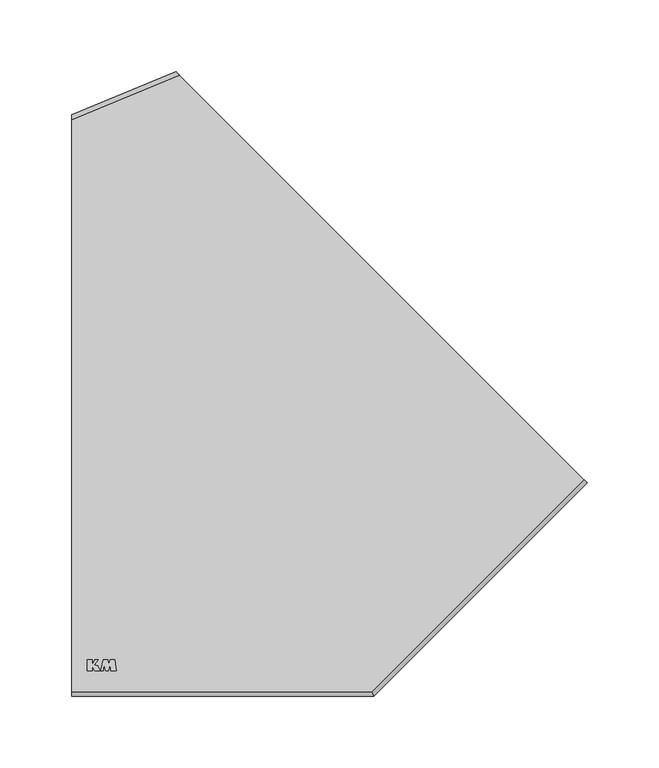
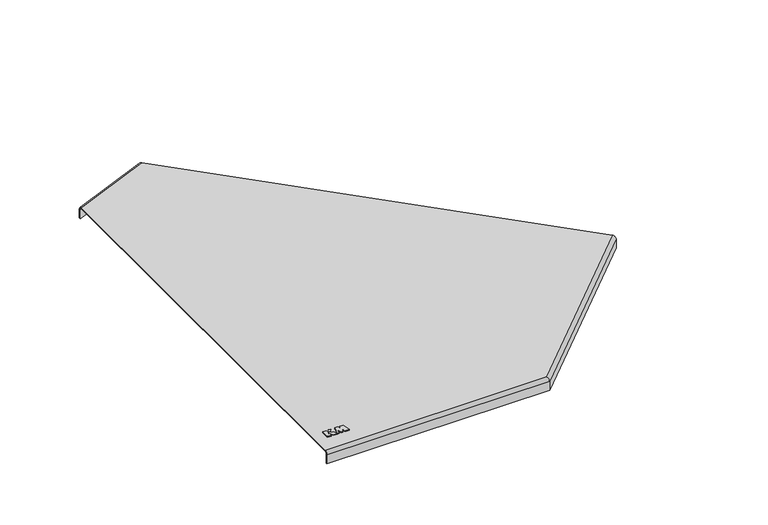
"""IFC4 building model written with IfcOpenShell, lengths in millimetres: cable carrier fitting geometry, КМ Профиль Крышка угла горизонтального KGL45 : Крышка угла горизонтального KGL45."""

import ifcopenshell
import ifcopenshell.guid

model = None  # the IFC model being written
_history = None  # IfcOwnerHistory: only IFC2X3 demands one
_inside = {}  # id of a spatial element -> (the spatial element, [elements in it])
_under = {}  # id of a project, library or spatial element -> (it, [spatial elements below it])
_declared = {}  # id of a project -> (the project, [libraries it declares])
_typed = {}  # id of a type object -> (the type object, [elements of that type])
_made_of = {}  # id of a material, layer set ... -> (it, [elements and type objects made of it])


def new_model(schema):
    """Start an empty IFC model of exactly this schema.

    Asked for "IFC4X3", IfcOpenShell would pick the latest addendum, in which some entities
    have other attributes; the version numbers below select the first issue.
    IFC2X3 requires an IfcOwnerHistory on every rooted entity: one is made here for all.
    """
    global model, _history
    if schema == "IFC4X3":
        model = ifcopenshell.file(schema_version=(4, 3, 0, 0))
    else:
        model = ifcopenshell.file(schema=schema)
    _inside.clear()
    _under.clear()
    _declared.clear()
    _typed.clear()
    _made_of.clear()
    _history = None
    if model.schema == "IFC2X3":
        org = make("IfcOrganization", Name="unknown")
        user = make(
            "IfcPersonAndOrganization",
            ThePerson=make("IfcPerson", FamilyName="unknown"),
            TheOrganization=org,
        )
        app = make(
            "IfcApplication",
            ApplicationDeveloper=org,
            Version="unknown",
            ApplicationFullName="unknown",
            ApplicationIdentifier="unknown",
        )
        _history = make(
            "IfcOwnerHistory",
            OwningUser=user,
            OwningApplication=app,
            ChangeAction="ADDED",
            CreationDate=0,
        )
    return model


def make(cls, **values):
    """One entity of the class cls with the attributes given. An attribute that is None is left unset."""
    return model.create_entity(
        cls, **{name: value for name, value in values.items() if value is not None}
    )


def rooted(cls, **values):
    """An entity with a GlobalId (a new one), such as an element, a storey or a relation."""
    return make(cls, GlobalId=ifcopenshell.guid.new(), OwnerHistory=_history, **values)


def si_unit(unit_type, name, prefix=None):
    """IfcSIUnit, for example si_unit("LENGTHUNIT", "METRE", prefix="MILLI")."""
    return make("IfcSIUnit", UnitType=unit_type, Prefix=prefix, Name=name)


def assignment(units):
    """IfcUnitAssignment: the units of a project."""
    return None if units is None else make("IfcUnitAssignment", Units=units)


def point(xyz):
    """IfcCartesianPoint."""
    return None if xyz is None else make("IfcCartesianPoint", Coordinates=xyz)


def direction(xyz):
    """IfcDirection."""
    return None if xyz is None else make("IfcDirection", DirectionRatios=xyz)


def frame(location, z_axis=None, x_axis=None):
    """IfcAxis2Placement3D, a coordinate frame: its origin and axes. An axis left out is left unset."""
    return make(
        "IfcAxis2Placement3D",
        Location=point(location),
        Axis=direction(z_axis),
        RefDirection=direction(x_axis),
    )


def origin():
    """The frame at (0, 0, 0) with its axes left unset."""
    return frame((0.0, 0.0, 0.0))


def place(relative_to, where):
    """IfcLocalPlacement: puts the frame where relative to a parent placement (None: the world)."""
    return make(
        "IfcLocalPlacement", PlacementRelTo=relative_to, RelativePlacement=where
    )


def context(
    kind, dimensions, precision=None, world=None, true_north=None, identifier=None
):
    """IfcGeometricRepresentationContext, for example the 3D "Model" context."""
    return make(
        "IfcGeometricRepresentationContext",
        ContextIdentifier=identifier,
        ContextType=kind,
        CoordinateSpaceDimension=dimensions,
        Precision=precision,
        WorldCoordinateSystem=world,
        TrueNorth=true_north,
    )


def project(units=None, contexts=None):
    """IfcProject with its units and contexts."""
    return rooted(
        "IfcProject",
        Name="project",
        RepresentationContexts=contexts,
        UnitsInContext=assignment(units),
    )


def spatial(cls, under=None, at=None, **own):
    """A site, building, storey or space (cls), placed at a placement, below another one or the project."""
    s = rooted(cls, ObjectPlacement=at, **own)
    if under is not None:
        _under.setdefault(under.id(), (under, []))[1].append(s)
    return s


def polyline(points):
    """IfcPolyline through the points."""
    return make("IfcPolyline", Points=[point(p) for p in points])


def circle_curve(where, radius):
    """IfcCircle in the frame where."""
    return make("IfcCircle", Position=where, Radius=radius)


def ellipse_curve(where, semi_axis1, semi_axis2):
    """IfcEllipse in the frame where."""
    return make(
        "IfcEllipse", Position=where, SemiAxis1=semi_axis1, SemiAxis2=semi_axis2
    )


def outline(outer, holes=None, kind="AREA"):
    """IfcArbitraryClosedProfileDef: a profile drawn as a closed curve; with holes, ...WithVoids."""
    if holes is None:
        return make("IfcArbitraryClosedProfileDef", ProfileType=kind, OuterCurve=outer)
    return make(
        "IfcArbitraryProfileDefWithVoids",
        ProfileType=kind,
        OuterCurve=outer,
        InnerCurves=holes,
    )


def extrude(swept, where, along, depth):
    """IfcExtrudedAreaSolid: the profile swept, set in the frame where, extruded along a direction by depth."""
    return make(
        "IfcExtrudedAreaSolid",
        SweptArea=swept,
        Position=where,
        ExtrudedDirection=direction(along),
        Depth=depth,
    )


def shape(context_of_items, identifier, shape_type, items):
    """IfcShapeRepresentation: the items that make up one representation, for example the "Body"."""
    return make(
        "IfcShapeRepresentation",
        ContextOfItems=context_of_items,
        RepresentationIdentifier=identifier,
        RepresentationType=shape_type,
        Items=items,
    )


def source(mapping_origin, context_of_items, identifier, shape_type, items):
    """IfcRepresentationMap: a shape defined once, which mapped items show again and again."""
    return make(
        "IfcRepresentationMap",
        MappingOrigin=mapping_origin,
        MappedRepresentation=shape(context_of_items, identifier, shape_type, items),
    )


def transform(
    local_origin,
    x_axis=None,
    y_axis=None,
    z_axis=None,
    scale=None,
    scale2=None,
    scale3=None,
    uniform=True,
):
    """IfcCartesianTransformationOperator3D, or its non-uniform kind. x_axis, y_axis, z_axis: its Axis1, 2, 3."""
    if uniform:
        return make(
            "IfcCartesianTransformationOperator3D",
            Axis1=direction(x_axis),
            Axis2=direction(y_axis),
            LocalOrigin=point(local_origin),
            Scale=scale,
            Axis3=direction(z_axis),
        )
    return make(
        "IfcCartesianTransformationOperator3DnonUniform",
        Axis1=direction(x_axis),
        Axis2=direction(y_axis),
        LocalOrigin=point(local_origin),
        Scale=scale,
        Axis3=direction(z_axis),
        Scale2=scale2,
        Scale3=scale3,
    )


def mapped(mapping_source, mapping_target):
    """IfcMappedItem: shows the shape of a source again, moved by a transform."""
    return make(
        "IfcMappedItem", MappingSource=mapping_source, MappingTarget=mapping_target
    )


def made_of(thing, what):
    """Note that an element or type object is made of a material, layer set ...; save() writes the relation."""
    if what is not None:
        _made_of.setdefault(what.id(), (what, []))[1].append(thing)
    return thing


def element(
    cls,
    number,
    at=None,
    inside=None,
    cuts=None,
    type_object=None,
    material=None,
    context=None,
    identifier="Body",
    shape_type=None,
    held_by="IfcProductDefinitionShape",
    body=None,
    shapes=None,
    **own,
):
    """One element of the class cls, such as IfcWall. Its Tag is "e" and its number.

    at: its placement. inside: the storey or other place that contains it. cuts: it is an
    opening in that element (IfcRelVoidsElement). A single representation is given by context,
    identifier, shape_type and body (its items); several are given by shapes. held_by: the class
    of the entity that holds the representations. save() writes the other relations.
    """
    e = rooted(cls, Tag="e%d" % number, ObjectPlacement=at, **own)
    if body is not None:
        shapes = [shape(context, identifier, shape_type, body)]
    if shapes is not None:
        e.Representation = make(held_by, Representations=shapes)
    if inside is not None:
        _inside.setdefault(inside.id(), (inside, []))[1].append(e)
    if cuts is not None:
        rooted(
            "IfcRelVoidsElement", RelatingBuildingElement=cuts, RelatedOpeningElement=e
        )
    if type_object is not None:
        _typed.setdefault(type_object.id(), (type_object, []))[1].append(e)
    return made_of(e, material)


def aggregate(whole, parts):
    """IfcRelAggregates: a whole, such as a stair, and the parts it consists of."""
    return rooted("IfcRelAggregates", RelatingObject=whole, RelatedObjects=parts)


def save(model, path):
    """Write the relations noted so far, then the file.

    IfcRelAggregates (storeys below a building ...), IfcRelContainedInSpatialStructure (elements
    in a storey), IfcRelDefinesByType, IfcRelAssociatesMaterial and IfcRelDeclares: one each for
    every whole, place, type object, material and project.
    """
    for whole, parts in _under.values():
        aggregate(whole, parts)
    for where, things in _inside.values():
        rooted(
            "IfcRelContainedInSpatialStructure",
            RelatedElements=things,
            RelatingStructure=where,
        )
    for kind, things in _typed.values():
        rooted("IfcRelDefinesByType", RelatedObjects=things, RelatingType=kind)
    for what, things in _made_of.values():
        rooted("IfcRelAssociatesMaterial", RelatedObjects=things, RelatingMaterial=what)
    for by, libraries in _declared.values():
        rooted("IfcRelDeclares", RelatingContext=by, RelatedDefinitions=libraries)
    model.write(path)


def plane_surface(at):
    """IfcPlane: the flat surface through the origin of the frame at, square to its z axis."""
    return make("IfcPlane", Position=at)


def cylinder_surface(at, radius):
    """IfcCylindricalSurface: all points at the distance radius from the z axis of the frame at."""
    return make("IfcCylindricalSurface", Position=at, Radius=radius)


def revolved_surface(curve, axis_point, axis_direction):
    """IfcSurfaceOfRevolution: the curve turned about the line through axis_point along axis_direction."""
    return make(
        "IfcSurfaceOfRevolution",
        SweptCurve=make("IfcArbitraryOpenProfileDef", ProfileType="CURVE", Curve=curve),
        AxisPosition=make("IfcAxis1Placement", Location=point(axis_point), Axis=direction(axis_direction)),
    )


def advanced_brep(points, edges, surfaces, faces):
    """IfcAdvancedBrep: a solid bounded by faces that lie on surfaces and meet in shared edges.

    An edge is (start, end): straight between two places in points (the first is 0);
    or (start, end, curve); or (start, end, curve, False) where it runs against its curve.
    A face is (place in surfaces, loops), or (place, loops, False) where it looks against
    its surface's normal. A loop lists edges by number (the first is 1), with a minus sign
    where the edge is run from its end to its start. The first loop is the outer one.
    """
    corners = [point(p) for p in points]
    vertices = [make("IfcVertexPoint", VertexGeometry=c) for c in corners]
    made = []
    for start, end, *more in edges:
        made.append(
            make(
                "IfcEdgeCurve",
                EdgeStart=vertices[start],
                EdgeEnd=vertices[end],
                EdgeGeometry=more[0] if more else make("IfcPolyline", Points=[corners[start], corners[end]]),
                SameSense=more[1] if len(more) > 1 else True,
            )
        )
    hull = []
    for where, loops, *sense in faces:
        bounds = []
        for j, loop in enumerate(loops):
            ring = [make("IfcOrientedEdge", EdgeElement=made[abs(k) - 1], Orientation=k > 0) for k in loop]
            bounds.append(
                make(
                    "IfcFaceOuterBound" if j == 0 else "IfcFaceBound",
                    Bound=make("IfcEdgeLoop", EdgeList=ring),
                    Orientation=True,
                )
            )
        hull.append(make("IfcAdvancedFace", Bounds=bounds, FaceSurface=surfaces[where], SameSense=sense[0] if sense else True))
    return make("IfcAdvancedBrep", Outer=make("IfcClosedShell", CfsFaces=hull))


def cable_carrier_fitting_205fb93f(model_context):
    return source(origin(), model_context, "Body", "SolidModel", [
        extrude(outline(polyline([(-115.6393683, -176.986157), (-112.1321094, -176.986157), (-112.1321094, -180.564509), (-110.2294659, -176.986157), (-108.1035012, -176.986157), (-110.5699857, -180.5086619), (-108.3282346, -181.194034), (-106.4609255, -184.737421), (-110.3593369, -184.737421), (-112.0635414, -181.5720802), (-112.0635414, -184.737421), (-115.6393683, -184.737421), (-115.6393683, -176.986157)])), frame((0.0, 0.0, 3.0), z_axis=(0.0, 0.0, 1.0), x_axis=(1.0, 0.0, 0.0)), (0.0, 0.0, 1.0), 0.8),
        extrude(outline(polyline([(-104.3967661, -184.737421), (-106.2948297, -184.737421), (-104.4745491, -176.9647569), (-101.4438206, -176.9647569), (-100.6773199, -180.0390232), (-99.6560124, -176.9623682), (-96.4620576, -176.9623682), (-95.2705601, -184.7429915), (-99.1730007, -184.7429915), (-99.6504934, -180.0541919), (-101.1305619, -184.7434681), (-102.6050726, -184.7434681), (-104.0130914, -180.0696135), (-104.3967661, -184.737421)])), frame((0.0, 0.0, 3.0), z_axis=(0.0, 0.0, 1.0), x_axis=(1.0, 0.0, 0.0)), (0.0, 0.0, 1.0), 0.8),
        advanced_brep(
        [(-53.8104794, 232.567767, -9.0), (-126.4004902, 202.5, -9.0), (-126.4004902, 202.5, 0.0), (-53.8104794, 232.567767, 0.0), (-126.4004902, 199.2528234, 3.0), (-51.5143788, 230.2716664, 3.0), (-51.5143788, 230.2716664, 2.0), (-126.4004902, 199.2528234, 2.0), (-126.4004902, 201.4176078, 0.0), (-53.0451126, 231.8024001, 0.0), (-126.4004902, 201.4176078, -9.0), (-53.0451126, 231.8024001, -9.0), (230.4464466, -51.6891591, 3.0), (-126.4004902, -199.5, 3.0), (82.6356057, -199.5, 3.0), (-126.4004902, -199.5, 2.0), (230.4464466, -51.6891591, 2.0), (82.6356057, -199.5, 2.0), (232.567767, -53.8104794, 0.0), (232.567767, -53.8104794, -9.0), (231.8606602, -53.1033726, -9.0), (231.8606602, -53.1033726, 0.0), (-126.4004902, -201.5, 0.0), (-126.4004902, -201.5, -9.0), (-126.4004902, -202.5, -9.0), (-126.4004902, -202.5, 0.0), (83.8782464, -202.5, 0.0), (83.4640328, -201.5, 0.0), (83.4640328, -201.5, -9.0), (83.8782464, -202.5, -9.0)],
        [
            (0, 1),
            (1, 2),
            (2, 3),
            (3, 0),
            (4, 5),
            (5, 3, ellipse_curve(frame((-51.5143788, 230.2716664, 0.0), z_axis=(-0.7071067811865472, -0.7071067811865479, 0.0), x_axis=(0.7071067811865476, -0.7071067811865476, 0.0)), 3.2471766, 3.0)),
            (2, 4, ellipse_curve(frame((-126.4004902, 199.2528234, 0.0), z_axis=(1.0, 0.0, 0.0), x_axis=(0.0, 0.9999999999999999, 0.0)), 3.2471766, 3.0)),
            (6, 7),
            (7, 8, ellipse_curve(frame((-126.4004902, 199.2528234, 0.0), z_axis=(-1.0, 0.0, 0.0), x_axis=(0.0, -0.9999999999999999, 0.0)), 2.1647844, 2.0)),
            (8, 9),
            (9, 6, ellipse_curve(frame((-51.5143788, 230.2716664, 0.0), z_axis=(0.7071067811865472, 0.7071067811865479, 0.0), x_axis=(-0.7071067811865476, 0.7071067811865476, 0.0)), 2.1647844, 2.0)),
            (8, 10),
            (10, 11),
            (11, 9),
            (0, 11),
            (10, 1),
            (12, 5),
            (4, 13),
            (13, 14),
            (14, 12),
            (15, 7),
            (6, 16),
            (16, 17),
            (17, 15),
            (12, 18, circle_curve(frame((230.4464466, -51.6891591, 0.0), z_axis=(0.7071067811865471, 0.707106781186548, 0.0), x_axis=(-0.707106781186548, 0.7071067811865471, 0.0)), 3.0)),
            (18, 19),
            (19, 20),
            (20, 21),
            (21, 16, circle_curve(frame((230.4464466, -51.6891591, 0.0), z_axis=(-0.7071067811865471, -0.707106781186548, 0.0), x_axis=(-0.707106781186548, 0.7071067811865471, 0.0)), 2.0)),
            (15, 22, circle_curve(frame((-126.4004902, -199.5, 0.0), z_axis=(1.0, 0.0, 0.0), x_axis=(0.0, 1.0, 0.0)), 2.0)),
            (22, 23),
            (23, 24),
            (24, 25),
            (25, 13, circle_curve(frame((-126.4004902, -199.5, 0.0), z_axis=(-1.0, 0.0, 0.0), x_axis=(0.0, 1.0, 0.0)), 3.0)),
            (25, 26),
            (26, 14, ellipse_curve(frame((82.6356057, -199.5, 0.0), z_axis=(-0.9238795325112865, -0.38268343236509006, 0.0), x_axis=(-0.3826834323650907, 0.9238795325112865, 0.0)), 3.2471766, 3.0)),
            (17, 27, ellipse_curve(frame((82.6356057, -199.5, 0.0), z_axis=(0.9238795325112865, 0.38268343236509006, 0.0), x_axis=(0.3826834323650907, -0.9238795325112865, 0.0)), 2.1647844, 2.0)),
            (27, 22),
            (27, 28),
            (28, 23),
            (28, 20),
            (19, 29),
            (29, 24),
            (29, 26),
            (26, 18),
            (21, 27),
        ],
        [
            plane_surface(frame((-52.6624291, 233.043305, -9.0), z_axis=(-0.38268343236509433, 0.923879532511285, 0.0), x_axis=(-0.923879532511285, -0.38268343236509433, 0.0))),
            cylinder_surface(frame((-51.5143788, 230.2716664, 0.0), z_axis=(0.9238795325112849, 0.3826834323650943, 0.0), x_axis=(0.3826834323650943, -0.9238795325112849, 0.0)), 3.0),
            revolved_surface(polyline([(-126.40049020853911, 197.08803902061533, 0.0), (-49.9836450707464, 228.74093267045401, 0.0)]), (-51.5143788, 230.2716664, 0.0), (-0.9238795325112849, -0.3826834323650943, 0.0)),
            plane_surface(frame((-52.2797457, 232.1194254, 0.0), z_axis=(0.3826834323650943, -0.9238795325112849, 0.0), x_axis=(-0.9238795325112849, -0.3826834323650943, 0.0))),
            plane_surface(frame((-52.2797457, 232.1194254, -9.0), z_axis=(0.0, 0.0, -1.0), x_axis=(-0.9238795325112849, -0.3826834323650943, 0.0))),
            plane_surface(frame((82.6356057, -199.5, 3.0), z_axis=(0.0, 0.0, 1.0), x_axis=(1.0, 0.0, 0.0))),
            plane_surface(frame((82.6356057, -199.5, 2.0), z_axis=(0.0, 0.0, -1.0), x_axis=(-1.0, 0.0, 0.0))),
            plane_surface(frame((230.4464466, -51.6891591, 3.0), z_axis=(0.7071067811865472, 0.7071067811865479, 0.0), x_axis=(0.0, 0.0, -1.0))),
            plane_surface(frame((-126.4004902, 199.2528234, 3.0), z_axis=(-1.0, 0.0, 0.0), x_axis=(0.0, 0.0, -1.0))),
            cylinder_surface(frame((-126.4004902, -199.5, 0.0), z_axis=(-1.0, 0.0, 0.0), x_axis=(0.0, 1.0, 0.0)), 3.0),
            revolved_surface(polyline([(83.46403282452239, -197.5, 0.0), (-126.4004902, -197.5, 0.0)]), (-126.4004902, -199.5, 0.0), (1.0, 0.0, 0.0)),
            plane_surface(frame((-126.4004902, -201.5, 0.0), z_axis=(0.0, 1.0, 0.0), x_axis=(1.0, 0.0, 0.0))),
            plane_surface(frame((-126.4004902, -201.5, -9.0), z_axis=(0.0, 0.0, -1.0), x_axis=(1.0, 0.0, 0.0))),
            plane_surface(frame((-126.4004902, -202.5, -9.0), z_axis=(0.0, -1.0, 0.0), x_axis=(1.0, 0.0, 0.0))),
            cylinder_surface(frame((81.756926, -200.3786797, 0.0), z_axis=(-0.7071067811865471, -0.707106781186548, 0.0), x_axis=(-0.707106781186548, 0.7071067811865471, 0.0)), 3.0),
            revolved_surface(polyline([(229.03223308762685, -50.27494548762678, 0.0), (80.6356056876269, -198.6715728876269, 0.0)]), (81.756926, -200.3786797, 0.0), (0.7071067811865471, 0.707106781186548, 0.0)),
            plane_surface(frame((83.4640328, -201.5, 0.0), z_axis=(-0.7071067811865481, 0.7071067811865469, 0.0), x_axis=(0.7071067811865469, 0.7071067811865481, 0.0))),
            plane_surface(frame((83.8782464, -202.5, -9.0), z_axis=(0.7071067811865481, -0.707106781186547, 0.0), x_axis=(0.707106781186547, 0.7071067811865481, 0.0))),
        ],
        [
            (0, [[1, 2, 3, 4]]),
            (1, [[5, 6, -3, 7]]),
            (2, [[8, 9, 10, 11]]),
            (3, [[-10, 12, 13, 14]]),
            (4, [[-1, 15, -13, 16]]),
            (5, [[17, -5, 18, 19, 20]]),
            (6, [[21, -8, 22, 23, 24]]),
            (7, [[-17, 25, 26, 27, 28, 29, -22, -11, -14, -15, -4, -6]]),
            (8, [[-18, -7, -2, -16, -12, -9, -21, 30, 31, 32, 33, 34]]),
            (9, [[-34, 35, 36, -19]]),
            (10, [[-30, -24, 37, 38]]),
            (11, [[-31, -38, 39, 40]]),
            (12, [[-32, -40, 41, -27, 42, 43]]),
            (13, [[-33, -43, 44, -35]]),
            (14, [[-36, 45, -25, -20]]),
            (15, [[-37, -23, -29, 46]]),
            (16, [[-39, -46, -28, -41]]),
            (17, [[-42, -26, -45, -44]]),
        ],
    ),
    ])


if __name__ == "__main__":
    model = new_model("IFC4")
    model_context = context("Model", 3, world=origin())
    ifc_project = project(units=[si_unit("LENGTHUNIT", "METRE", prefix="MILLI")], contexts=[model_context])
    site = spatial("IfcSite", under=ifc_project)
    building = spatial("IfcBuilding", under=site)
    placement = place(None, origin())
    cable_carrier_fitting_shape = cable_carrier_fitting_205fb93f(model_context)
    element("IfcCableCarrierFitting", 1, ObjectType="КМ Профиль Крышка угла горизонтального KGL45 : Крышка угла горизонтального KGL45", at=placement, inside=building, context=model_context, shape_type="MappedRepresentation", body=[
        mapped(cable_carrier_fitting_shape, transform((0.0, 0.0, 0.0), x_axis=(1.0, 0.0, 0.0), y_axis=(0.0, 1.0, 0.0), z_axis=(0.0, 0.0, 1.0))),
    ])
    save(model, "model.ifc")
